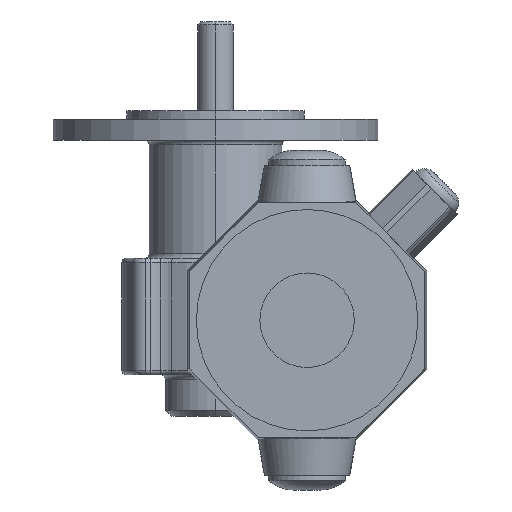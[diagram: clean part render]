
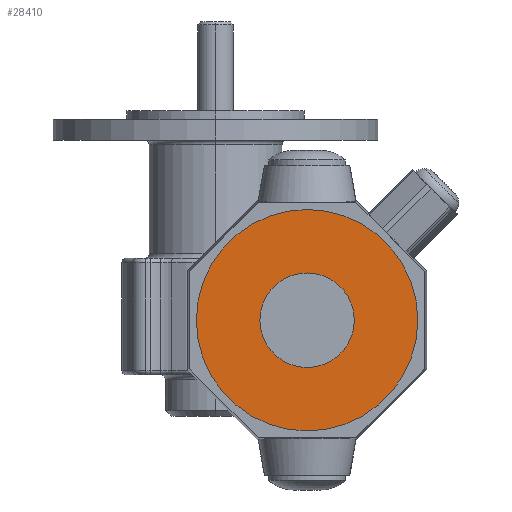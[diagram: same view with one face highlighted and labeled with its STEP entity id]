
A CAD part, left-side view. The second image highlights one B-rep face of the part: STEP entity #28410.
In plain terms, the highlighted planar face has unit normal (-1, 0, 0) as drawn and (0.026, 0, -1) by its records, which use the part's own axes.
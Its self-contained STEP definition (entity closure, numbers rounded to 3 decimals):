
#27850=CARTESIAN_POINT('',(-85.043,455.,
-145.117));
#27860=VERTEX_POINT('',#27850);
#28020=CARTESIAN_POINT('',(-10.069,455.,
-143.154));
#28030=VERTEX_POINT('',#28020);
#28060=CARTESIAN_POINT('',(-47.556,455.,
-144.136));
#28070=DIRECTION('',(0.026,0.,
-1.));
#28080=DIRECTION('',(-1.,0.,
-0.026));
#28090=AXIS2_PLACEMENT_3D('',#28060,#28070,#28080);
#28100=CIRCLE('',#28090,37.5);
#28110=EDGE_CURVE('',#28030,#27860,#28100,.T.);
#28160=CARTESIAN_POINT('',(-47.636,446.576,
-144.138));
#28170=DIRECTION('',(0.026,0.,
-1.));
#28180=DIRECTION('',(-1.,0.,
-0.026));
#28190=AXIS2_PLACEMENT_3D('',#28160,#28170,#28180);
#28200=PLANE('',#28190);
#28210=EDGE_CURVE('',#27860,#28030,#28100,.T.);
#28220=ORIENTED_EDGE('',*,*,#28210,.T.);
#28230=ORIENTED_EDGE('',*,*,#28110,.T.);
#28240=EDGE_LOOP('',(#28230,#28220));
#28250=FACE_OUTER_BOUND('',#28240,.T.);
#28260=CARTESIAN_POINT('',(-47.556,455.,
-144.136));
#28270=DIRECTION('',(0.026,0.,
-1.));
#28280=DIRECTION('',(-1.,0.,
-0.026));
#28290=AXIS2_PLACEMENT_3D('',#28260,#28270,#28280);
#28300=CIRCLE('',#28290,16.);
#28310=CARTESIAN_POINT('',(-63.551,455.,
-144.555));
#28320=VERTEX_POINT('',#28310);
#28330=CARTESIAN_POINT('',(-31.561,455.,
-143.717));
#28340=VERTEX_POINT('',#28330);
#28350=EDGE_CURVE('',#28320,#28340,#28300,.T.);
#28360=ORIENTED_EDGE('',*,*,#28350,.F.);
#28370=EDGE_CURVE('',#28340,#28320,#28300,.T.);
#28380=ORIENTED_EDGE('',*,*,#28370,.F.);
#28390=EDGE_LOOP('',(#28380,#28360));
#28400=FACE_BOUND('',#28390,.T.);
#28410=ADVANCED_FACE('',(#28250,#28400),#28200,.T.);
